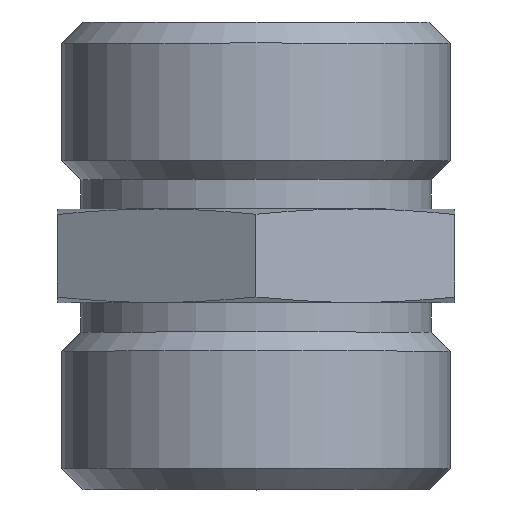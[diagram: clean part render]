
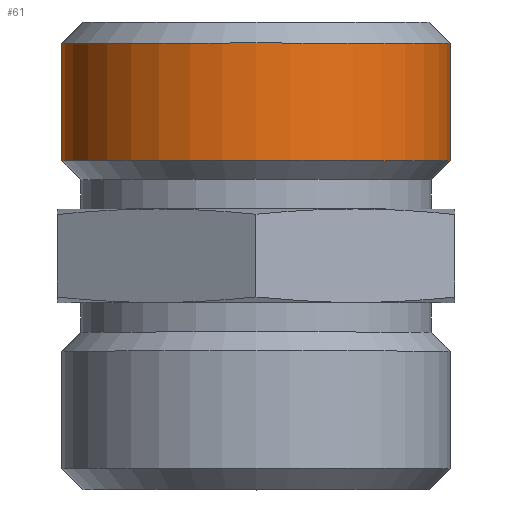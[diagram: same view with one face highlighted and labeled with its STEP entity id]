
A CAD part, top view. The second image highlights one B-rep face of the part: STEP entity #61.
In plain terms, the highlighted cylindrical face has radius 16.625 mm (diameter 33.249 mm), a full revolution.
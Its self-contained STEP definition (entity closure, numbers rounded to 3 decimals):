
#61=ADVANCED_FACE('',(#192,#194),#196,.T.);
#192=FACE_OUTER_BOUND('',#193,.T.);
#193=EDGE_LOOP('',(#896));
#194=FACE_OUTER_BOUND('',#195,.T.);
#195=EDGE_LOOP('',(#897));
#196=CYLINDRICAL_SURFACE('',#197,16.625);
#197=AXIS2_PLACEMENT_3D('',#198,#199,#200);
#198=CARTESIAN_POINT('',(0.,-20.,0.));
#199=DIRECTION('',(0.,1.,0.));
#200=DIRECTION('',(-1.,0.,0.));
#896=ORIENTED_EDGE('',*,*,#998,.F.);
#897=ORIENTED_EDGE('',*,*,#1000,.T.);
#998=EDGE_CURVE('',#1057,#1057,#1058,.T.);
#1000=EDGE_CURVE('',#1061,#1061,#1062,.F.);
#1057=VERTEX_POINT('',#1165);
#1058=CIRCLE('',#1166,16.625);
#1061=VERTEX_POINT('',#1175);
#1062=CIRCLE('',#1176,16.625);
#1165=CARTESIAN_POINT('',(-16.625,18.2,0.));
#1166=AXIS2_PLACEMENT_3D('',#1167,#1168,#1169);
#1167=CARTESIAN_POINT('',(0.,18.2,0.));
#1168=DIRECTION('',(0.,1.,0.));
#1169=DIRECTION('',(-1.,0.,0.));
#1175=CARTESIAN_POINT('',(-16.625,8.15,0.));
#1176=AXIS2_PLACEMENT_3D('',#1177,#1178,#1179);
#1177=CARTESIAN_POINT('',(0.,8.15,0.));
#1178=DIRECTION('',(0.,-1.,0.));
#1179=DIRECTION('',(-1.,0.,0.));
